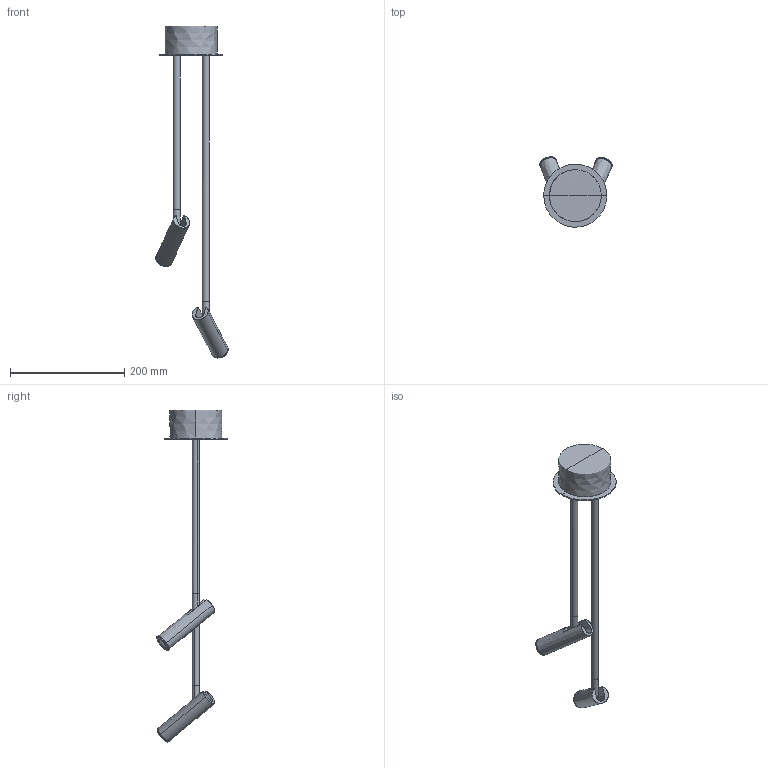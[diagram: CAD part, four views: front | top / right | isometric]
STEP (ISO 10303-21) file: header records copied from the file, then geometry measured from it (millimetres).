
FILE_DESCRIPTION(/* description */ (''),/* implementation_level */ '2;1');
FILE_NAME(/* name */ '4039B',/* time_stamp */ '2023-11-02T12:02:09+01:00',/* author */ (''),/* organization */ (''),/* preprocessor_version */ 'ST-DEVELOPER v16.5',/* originating_system */ '',/* authorisation */ '');
FILE_SCHEMA (('AUTOMOTIVE_DESIGN'));
Length unit declared in the file: millimetre
Products named in the file (1): Document
Bounding box: 126.35 x 123.28 x 579.96 mm (x, y, z)
Volume: 307867.1 mm3; surface area: 114335.4 mm2
Topology: 13 solids, 13 shells, 132 faces, 256 edges, 148 vertices
Faces by surface type: bspline 132
Entity records: 7275 total; most frequent: CARTESIAN_POINT 4166, ORIENTED_EDGE 504, PCURVE 504, DEFINITIONAL_REPRESENTATION 504, B_SPLINE_CURVE_WITH_KNOTS 446, SURFACE_CURVE 252, EDGE_CURVE 252, VERTEX_POINT 148
